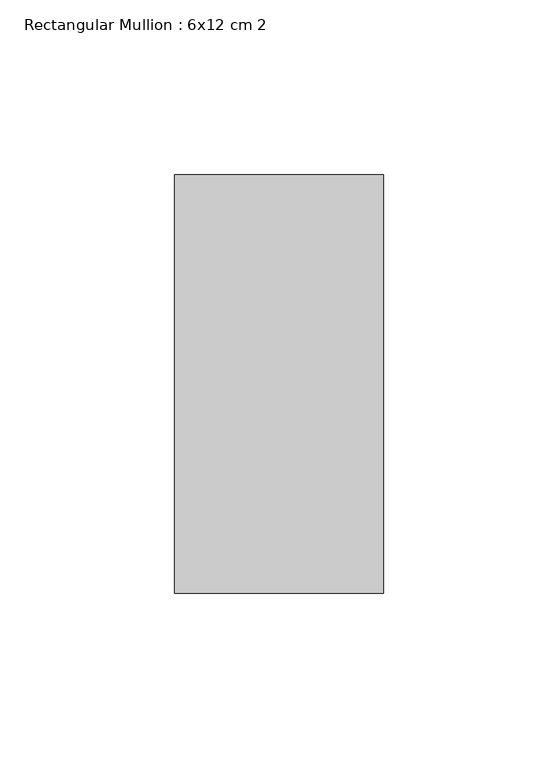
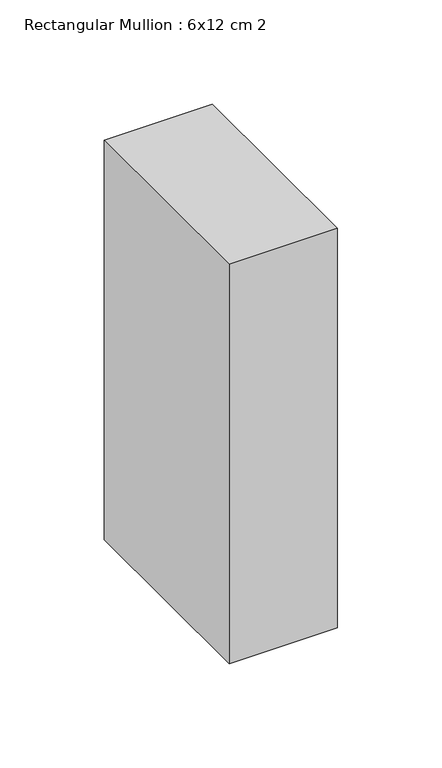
"""IFC4 building model written with IfcOpenShell, lengths in millimetres: member geometry, Rectangular Mullion : 6x12 cm 2."""

from ifc_helpers import new_model, si_unit, frame, origin, place, context, project, spatial, polyline, outline, extrude, source, transform, mapped, element, save


def rectangular_mullion_6x12_cm_2_7f0985eb(model_context):
    return source(origin(), model_context, "Body", "SweptSolid", [
        extrude(outline(polyline([(0.0, 205.0), (0.0, 85.0), (-60.0, 85.0), (-60.0, 205.0), (0.0, 205.0)])), frame((0.0, 0.0, -234.1662796), z_axis=(0.0, 0.0, 1.0), x_axis=(1.0, 0.0, 0.0)), (0.0, 0.0, 1.0), 234.1662796),
    ])


if __name__ == "__main__":
    model = new_model("IFC4")
    model_context = context("Model", 3, world=origin())
    ifc_project = project(units=[si_unit("LENGTHUNIT", "METRE", prefix="MILLI")], contexts=[model_context])
    site = spatial("IfcSite", under=ifc_project)
    building = spatial("IfcBuilding", under=site)
    placement = place(None, origin())
    rectangular_mullion_6x12_cm_2_shape = rectangular_mullion_6x12_cm_2_7f0985eb(model_context)
    element("IfcMember", 1, ObjectType="Rectangular Mullion : 6x12 cm 2", at=placement, inside=building, context=model_context, shape_type="MappedRepresentation", body=[
        mapped(rectangular_mullion_6x12_cm_2_shape, transform((0.0, 0.0, 0.0), x_axis=(1.0, 0.0, 0.0), y_axis=(0.0, 1.0, 0.0), z_axis=(0.0, 0.0, 1.0))),
    ])
    save(model, "model.ifc")
